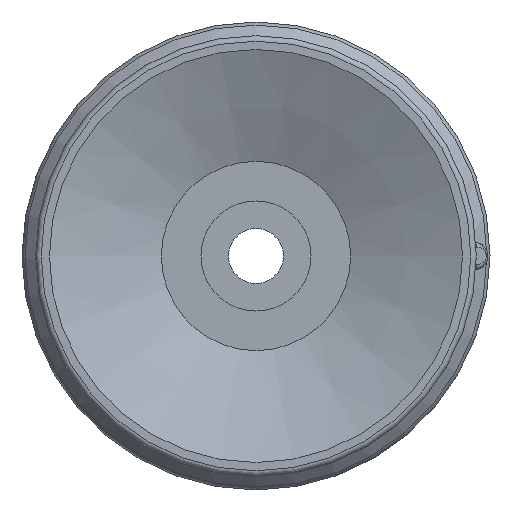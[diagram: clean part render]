
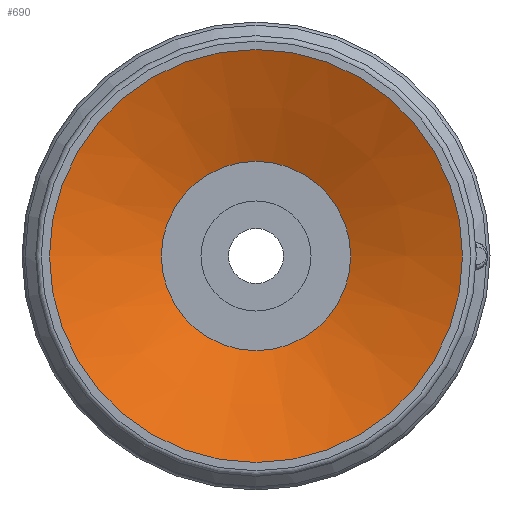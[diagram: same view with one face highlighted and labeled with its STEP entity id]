
A CAD part, front view. The second image highlights one B-rep face of the part: STEP entity #690.
In plain terms, the highlighted conical face has half-angle 67.5 degrees and reference radius 3.437 mm.
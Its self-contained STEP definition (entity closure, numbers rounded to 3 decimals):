
#690=ADVANCED_FACE('',(#992,#993),#994,.F.);
#992=FACE_BOUND('',#2392,.T.);
#993=FACE_OUTER_BOUND('',#2393,.T.);
#994=CONICAL_SURFACE('',#2394,3.437,1.178);
#2392=EDGE_LOOP('',(#3352));
#2393=EDGE_LOOP('',(#3353));
#2394=AXIS2_PLACEMENT_3D('',#3354,#3355,#3356);
#3352=ORIENTED_EDGE('',*,*,#3874,.F.);
#3353=ORIENTED_EDGE('',*,*,#3878,.T.);
#3354=CARTESIAN_POINT('',(0.0,0.0,1.683));
#3355=DIRECTION('',(0.0,0.,-1.0));
#3356=DIRECTION('',(0.0,1.0,0.));
#3874=EDGE_CURVE('',#4256,#4256,#4257,.T.);
#3878=EDGE_CURVE('',#4264,#4264,#4265,.T.);
#4256=VERTEX_POINT('',#5219);
#4257=CIRCLE('',#5220,3.437);
#4264=VERTEX_POINT('',#5227);
#4265=CIRCLE('',#5228,7.5);
#5219=CARTESIAN_POINT('',(-3.437,0.0,1.683));
#5220=AXIS2_PLACEMENT_3D('',#5950,#5951,#5952);
#5227=CARTESIAN_POINT('',(-7.5,0.0,0.));
#5228=AXIS2_PLACEMENT_3D('',#5962,#5963,#5964);
#5950=CARTESIAN_POINT('',(0.0,0.0,1.683));
#5951=DIRECTION('',(0.0,0.,-1.0));
#5952=DIRECTION('',(0.0,1.0,0.));
#5962=CARTESIAN_POINT('',(0.0,0.0,0.));
#5963=DIRECTION('',(0.0,0.,-1.0));
#5964=DIRECTION('',(0.0,1.0,0.));
